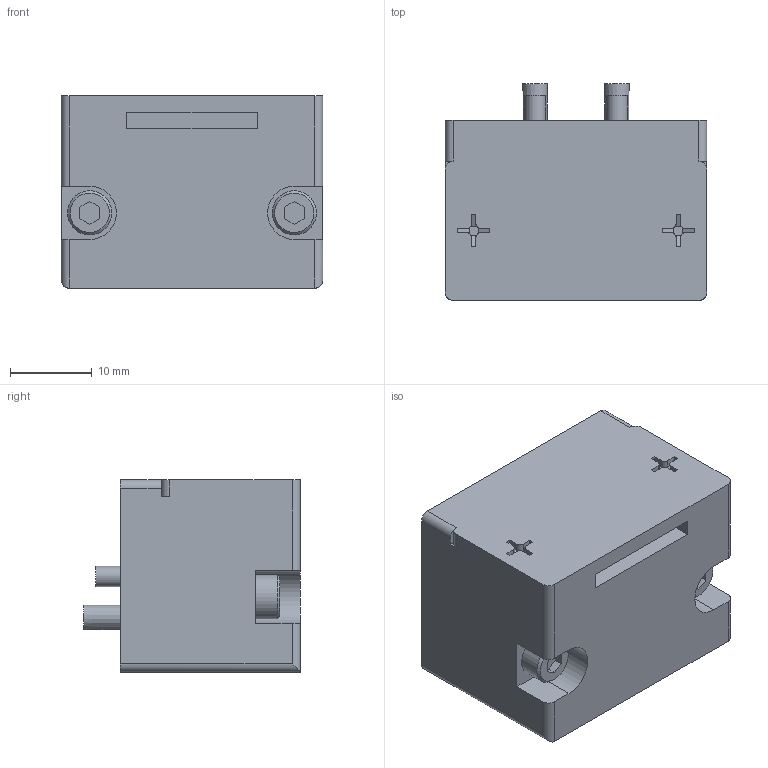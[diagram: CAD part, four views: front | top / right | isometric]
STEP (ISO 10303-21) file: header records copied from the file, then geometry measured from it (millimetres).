
FILE_DESCRIPTION(('STEP AP214'),'1');
FILE_NAME('KHB-3RS-D38_ver1.stp','2026-04-24T00:41:53',(' '),(' '),'Spatial InterOp 3D',' ',' ');
FILE_SCHEMA(('AUTOMOTIVE_DESIGN { 1 0 10303 214 1 1 1 1 }'));
Length unit declared in the file: millimetre
Products named in the file (1): KHB-3RS-D38_ver1
Bounding box: 32 x 26.5 x 23.5 mm (x, y, z)
Volume: 15451.8 mm3; surface area: 6312.7 mm2
Topology: 1 solids, 13 shells, 247 faces, 522 edges, 344 vertices
Faces by surface type: plane 167, cylinder 68, cone 12
Full cylindrical faces by diameter (mm): 1.02 x8, 1.8 x8, 2 x8, 2.15 x2, 2.5 x8, 3 x4, 3.5 x4, 5.41 x4, 6.5 x2
Entity records: 8150 total; most frequent: DIRECTION 1092, CARTESIAN_POINT 1022, ORIENTED_EDGE 892, EDGE_CURVE 446, AXIS2_PLACEMENT_3D 398, EDGE_LOOP 358, VERTEX_POINT 328, LINE 296
